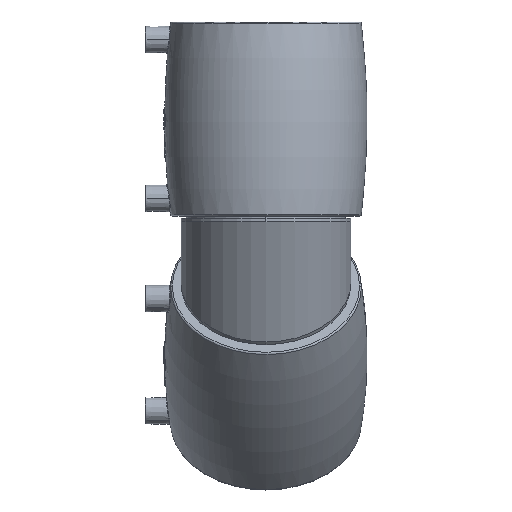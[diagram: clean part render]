
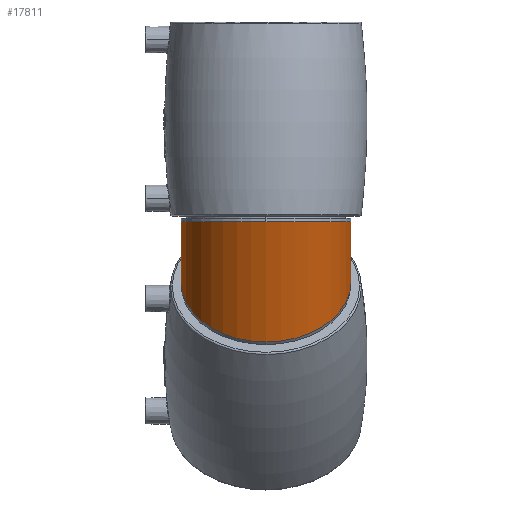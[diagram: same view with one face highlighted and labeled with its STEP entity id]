
A CAD part, left-side view. The second image highlights one B-rep face of the part: STEP entity #17811.
In plain terms, the highlighted toroidal (fillet/blend) face has major radius 48.15 mm and minor radius 48.15 mm.
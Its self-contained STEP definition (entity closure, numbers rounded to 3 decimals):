
#650 = AXIS2_PLACEMENT_3D ( 'NONE', #22928, #22929, #22930 ) ;
#698 = AXIS2_PLACEMENT_3D ( 'NONE', #47935, #47936, #47937 ) ;
#2610 = EDGE_LOOP ( 'NONE', ( #36016, #36017, #36018, #36019 ) ) ;
#3481 = VERTEX_POINT ( 'NONE', #8774 ) ;
#3529 = VERTEX_POINT ( 'NONE', #8808 ) ;
#3530 = VERTEX_POINT ( 'NONE', #8809 ) ;
#5929 = EDGE_CURVE ( 'NONE', #3529, #3481, #6276, .T. ) ;
#6276 = CIRCLE ( 'NONE', #650, 48.15 ) ;
#6320 = CIRCLE ( 'NONE', #698, 48.15 ) ;
#7748 = EDGE_CURVE ( 'NONE', #3481, #3530, #6320, .T. ) ;
#8774 = CARTESIAN_POINT ( 'NONE',  ( 4.658, -3.074, 60.928 ) ) ;
#8808 = CARTESIAN_POINT ( 'NONE',  ( -91.642, -3.074, 60.928 ) ) ;
#8809 = CARTESIAN_POINT ( 'NONE',  ( -63.437, -3.074, -7.166 ) ) ;
#17811 = ADVANCED_FACE ( 'NONE', ( #30368 ), #30367, .T. ) ;
#18328 = EDGE_CURVE ( 'NONE', #3481, #3529, #36538, .T. ) ;
#18359 = EDGE_CURVE ( 'NONE', #3530, #3481, #36568, .T. ) ;
#22928 = CARTESIAN_POINT ( 'NONE',  ( -43.492, -3.074, 60.928 ) ) ;
#22929 = DIRECTION ( 'NONE',  ( 0., 0., 1. ) ) ;
#22930 = DIRECTION ( 'NONE',  ( 1., 0., 0. ) ) ;
#23672 = AXIS2_PLACEMENT_3D ( 'NONE', #35087, #35086, #35089 ) ;
#30367 = TOROIDAL_SURFACE ( 'NONE', #23672, 48.15, 48.15 ) ;
#30368 = FACE_OUTER_BOUND ( 'NONE', #2610, .T. ) ;
#35086 = DIRECTION ( 'NONE',  ( 0., -1., 0. ) ) ;
#35087 = CARTESIAN_POINT ( 'NONE',  ( 4.658, -3.074, 60.928 ) ) ;
#35089 = DIRECTION ( 'NONE',  ( 0., 0., -1. ) ) ;
#36016 = ORIENTED_EDGE ( 'NONE', *, *, #18328, .F. ) ;
#36017 = ORIENTED_EDGE ( 'NONE', *, *, #7748, .T. ) ;
#36018 = ORIENTED_EDGE ( 'NONE', *, *, #18359, .T. ) ;
#36019 = ORIENTED_EDGE ( 'NONE', *, *, #5929, .F. ) ;
#36538 = CIRCLE ( 'NONE', #40324, 48.15 ) ;
#36568 = CIRCLE ( 'NONE', #40333, 48.15 ) ;
#40324 = AXIS2_PLACEMENT_3D ( 'NONE', #43442, #43444, #43446 ) ;
#40333 = AXIS2_PLACEMENT_3D ( 'NONE', #43545, #43547, #43549 ) ;
#43442 = CARTESIAN_POINT ( 'NONE',  ( -43.492, -3.074, 60.928 ) ) ;
#43444 = DIRECTION ( 'NONE',  ( 0., 0., 1. ) ) ;
#43446 = DIRECTION ( 'NONE',  ( 1., 0., 0. ) ) ;
#43545 = CARTESIAN_POINT ( 'NONE',  ( -29.389, -3.074, 26.881 ) ) ;
#43547 = DIRECTION ( 'NONE',  ( -0.707, 0., 0.707 ) ) ;
#43549 = DIRECTION ( 'NONE',  ( 0.707, 0., 0.707 ) ) ;
#47935 = CARTESIAN_POINT ( 'NONE',  ( -29.389, -3.074, 26.881 ) ) ;
#47936 = DIRECTION ( 'NONE',  ( -0.707, 0., 0.707 ) ) ;
#47937 = DIRECTION ( 'NONE',  ( 0.707, 0., 0.707 ) ) ;
